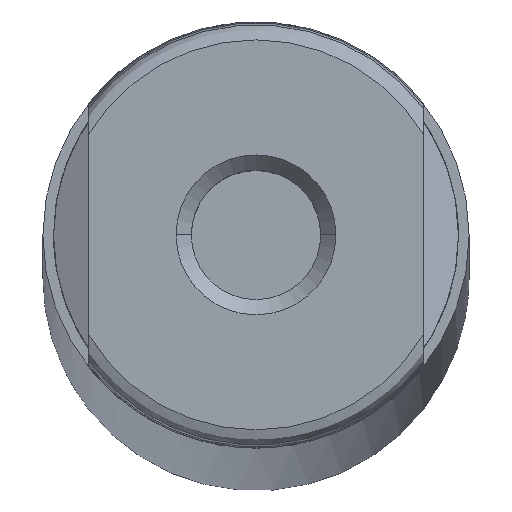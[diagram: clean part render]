
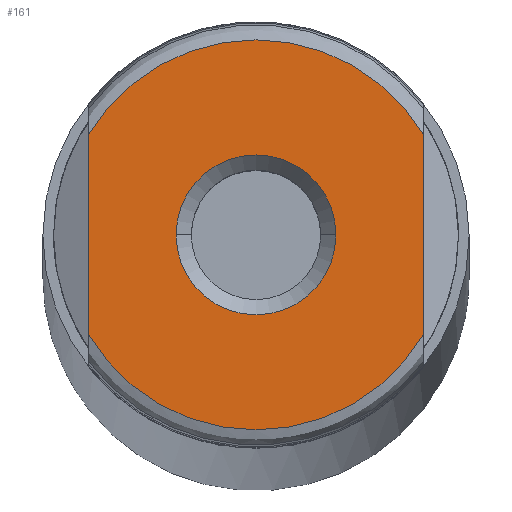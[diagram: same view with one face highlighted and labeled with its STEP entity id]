
A CAD part, top view. The second image highlights one B-rep face of the part: STEP entity #161.
In plain terms, the highlighted planar face has unit normal (0, 0, 1).
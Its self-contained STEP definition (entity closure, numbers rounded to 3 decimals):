
#126 = VERTEX_POINT ( 'NONE', #1085 ) ;
#154 = ORIENTED_EDGE ( 'NONE', *, *, #170, .T. ) ;
#155 = EDGE_LOOP ( 'NONE', ( #694, #154, #1266, #1255 ) ) ;
#156 = EDGE_LOOP ( 'NONE', ( #1346, #222 ) ) ;
#161 = ADVANCED_FACE ( 'NONE', ( #558, #559 ), #560, .F. ) ;
#170 = EDGE_CURVE ( 'NONE', #224, #1128, #614, .T. ) ;
#194 = VERTEX_POINT ( 'NONE', #795 ) ;
#209 = VERTEX_POINT ( 'NONE', #874 ) ;
#218 = EDGE_CURVE ( 'NONE', #1320, #209, #957, .T. ) ;
#222 = ORIENTED_EDGE ( 'NONE', *, *, #510, .F. ) ;
#224 = VERTEX_POINT ( 'NONE', #239 ) ;
#239 = CARTESIAN_POINT ( 'NONE',  ( 11., -6.56, 0. ) ) ;
#328 = EDGE_CURVE ( 'NONE', #194, #126, #334, .T. ) ;
#334 = CIRCLE ( 'NONE', #335, 5.25 ) ;
#335 = AXIS2_PLACEMENT_3D ( 'NONE', #336, #337, #338 ) ;
#336 = CARTESIAN_POINT ( 'NONE',  ( 0., 0., 0. ) ) ;
#337 = DIRECTION ( 'NONE',  ( 0., 0., 1. ) ) ;
#338 = DIRECTION ( 'NONE',  ( 1., 0., 0. ) ) ;
#398 = CIRCLE ( 'NONE', #399, 5.25 ) ;
#399 = AXIS2_PLACEMENT_3D ( 'NONE', #400, #401, #402 ) ;
#400 = CARTESIAN_POINT ( 'NONE',  ( 0., 0., 0. ) ) ;
#401 = DIRECTION ( 'NONE',  ( 0., 0., 1. ) ) ;
#402 = DIRECTION ( 'NONE',  ( 1., 0., 0. ) ) ;
#510 = EDGE_CURVE ( 'NONE', #126, #194, #398, .T. ) ;
#558 = FACE_BOUND ( 'NONE', #156, .T. ) ;
#559 = FACE_OUTER_BOUND ( 'NONE', #155, .T. ) ;
#560 = PLANE ( 'NONE',  #561 ) ;
#561 = AXIS2_PLACEMENT_3D ( 'NONE', #562, #563, #564 ) ;
#562 = CARTESIAN_POINT ( 'NONE',  ( 0., 0., 0. ) ) ;
#563 = DIRECTION ( 'NONE',  ( 0., 0., -1. ) ) ;
#564 = DIRECTION ( 'NONE',  ( -1., 0., 0. ) ) ;
#571 = CIRCLE ( 'NONE', #572, 12.808 ) ;
#572 = AXIS2_PLACEMENT_3D ( 'NONE', #573, #574, #575 ) ;
#573 = CARTESIAN_POINT ( 'NONE',  ( 0., 0., 0. ) ) ;
#574 = DIRECTION ( 'NONE',  ( 0., 0., 1. ) ) ;
#575 = DIRECTION ( 'NONE',  ( 1., 0., 0. ) ) ;
#614 = LINE ( 'NONE', #615, #616 ) ;
#615 = CARTESIAN_POINT ( 'NONE',  ( 11., -14., 0. ) ) ;
#616 = VECTOR ( 'NONE', #617, 1000. ) ;
#617 = DIRECTION ( 'NONE',  ( 0., 1., 0. ) ) ;
#656 = CARTESIAN_POINT ( 'NONE',  ( -11., -6.56, 0. ) ) ;
#657 = CIRCLE ( 'NONE', #658, 12.808 ) ;
#658 = AXIS2_PLACEMENT_3D ( 'NONE', #660, #661, #662 ) ;
#660 = CARTESIAN_POINT ( 'NONE',  ( 0., 0., 0. ) ) ;
#661 = DIRECTION ( 'NONE',  ( 0., 0., 1. ) ) ;
#662 = DIRECTION ( 'NONE',  ( 1., 0., 0. ) ) ;
#694 = ORIENTED_EDGE ( 'NONE', *, *, #868, .T. ) ;
#770 = CARTESIAN_POINT ( 'NONE',  ( 11., 6.56, 0. ) ) ;
#795 = CARTESIAN_POINT ( 'NONE',  ( 5.25, 0., 0. ) ) ;
#868 = EDGE_CURVE ( 'NONE', #1320, #224, #571, .T. ) ;
#874 = CARTESIAN_POINT ( 'NONE',  ( -11., 6.56, 0. ) ) ;
#957 = LINE ( 'NONE', #958, #959 ) ;
#958 = CARTESIAN_POINT ( 'NONE',  ( -11., -14., 0. ) ) ;
#959 = VECTOR ( 'NONE', #960, 1000. ) ;
#960 = DIRECTION ( 'NONE',  ( 0., 1., 0. ) ) ;
#987 = EDGE_CURVE ( 'NONE', #1128, #209, #657, .T. ) ;
#1085 = CARTESIAN_POINT ( 'NONE',  ( -5.25, 0., 0. ) ) ;
#1128 = VERTEX_POINT ( 'NONE', #770 ) ;
#1255 = ORIENTED_EDGE ( 'NONE', *, *, #218, .F. ) ;
#1266 = ORIENTED_EDGE ( 'NONE', *, *, #987, .T. ) ;
#1320 = VERTEX_POINT ( 'NONE', #656 ) ;
#1346 = ORIENTED_EDGE ( 'NONE', *, *, #328, .F. ) ;
